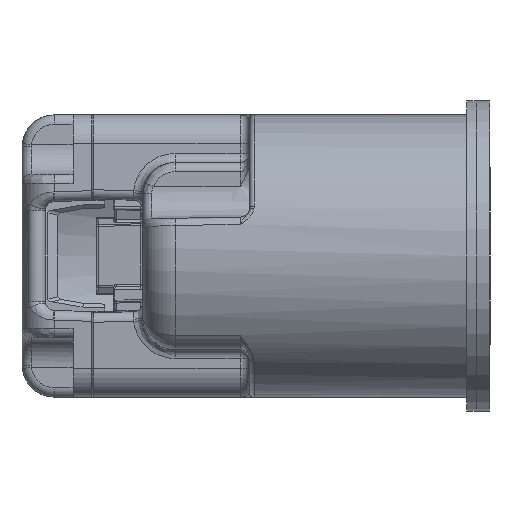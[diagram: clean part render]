
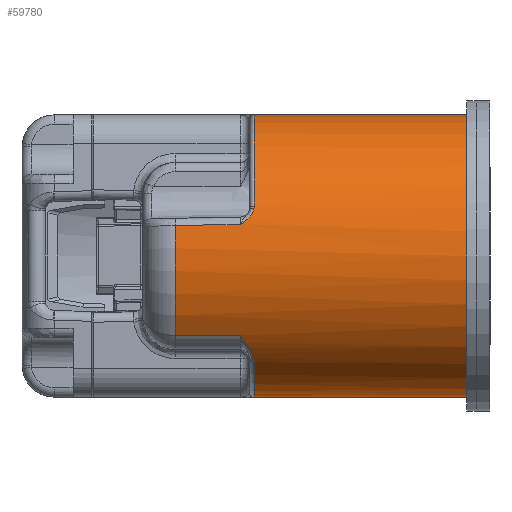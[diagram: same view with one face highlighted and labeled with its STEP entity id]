
A CAD part, left-side view. The second image highlights one B-rep face of the part: STEP entity #59780.
In plain terms, the highlighted cylindrical face has radius 15.2 mm (diameter 30.4 mm), a partial arc.
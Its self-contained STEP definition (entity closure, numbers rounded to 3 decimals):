
#17132=CARTESIAN_POINT('',(-19.8,-6.3,0.));
#17133=DIRECTION('',(0.,1.,0.));
#17134=DIRECTION('',(0.,0.,-1.));
#17135=AXIS2_PLACEMENT_3D('',#17132,#17133,#17134);
#17140=CARTESIAN_POINT('',(-19.8,16.6,0.));
#17141=DIRECTION('',(0.,1.,0.));
#17142=DIRECTION('',(0.,0.,-1.));
#17143=AXIS2_PLACEMENT_3D('',#17140,#17141,#17142);
#17148=CARTESIAN_POINT('',(-29.795,16.6,-11.452));
#17149=CARTESIAN_POINT('',(-29.796,16.6,-11.451));
#17150=CARTESIAN_POINT('',(-29.799,16.6,
-11.448));
#17151=CARTESIAN_POINT('',(-29.803,16.6,
-11.445));
#17152=CARTESIAN_POINT('',(-29.806,16.6,
-11.442));
#17153=CARTESIAN_POINT('',(-29.807,16.6,
-11.441));
#17158=CARTESIAN_POINT('',(-29.807,16.6,
-11.441));
#17159=CARTESIAN_POINT('',(-29.944,16.601,
-11.322));
#17160=CARTESIAN_POINT('',(-30.214,16.628,
-11.077));
#17161=CARTESIAN_POINT('',(-30.635,16.751,
-10.666));
#17162=CARTESIAN_POINT('',(-30.996,16.924,
-10.284));
#17163=CARTESIAN_POINT('',(-31.299,17.115,
-9.943));
#17164=CARTESIAN_POINT('',(-31.551,17.305,
-9.644));
#17165=CARTESIAN_POINT('',(-31.763,17.487,
-9.379));
#17166=CARTESIAN_POINT('',(-31.944,17.656,
-9.142));
#17167=CARTESIAN_POINT('',(-32.103,17.814,
-8.928));
#17168=CARTESIAN_POINT('',(-32.244,17.961,
-8.729));
#17169=CARTESIAN_POINT('',(-32.331,18.055,
-8.603));
#17170=CARTESIAN_POINT('',(-32.373,18.1,-8.542));
#17175=DIRECTION('',(0.,1.,0.));
#17176=VECTOR('',#17175,7.);
#17177=CARTESIAN_POINT('',(-32.373,18.1,-8.542));
#17178=LINE('',#17177,#17176);
#17182=CARTESIAN_POINT('',(-19.8,25.1,0.));
#17183=DIRECTION('',(0.,1.,0.));
#17184=DIRECTION('',(-0.827,0.,-0.562));
#17185=AXIS2_PLACEMENT_3D('',#17182,#17183,#17184);
#17190=CARTESIAN_POINT('',(-34.612,18.1,
3.413));
#17191=CARTESIAN_POINT('',(-34.615,18.807,
3.4));
#17192=CARTESIAN_POINT('',(-34.621,20.269,
3.373));
#17193=CARTESIAN_POINT('',(-34.631,22.575,
3.33));
#17194=CARTESIAN_POINT('',(-34.638,24.24,
3.299));
#17195=CARTESIAN_POINT('',(-34.641,25.1,
3.283));
#17200=CARTESIAN_POINT('',(-34.108,16.617,
5.131));
#17201=CARTESIAN_POINT('',(-34.145,16.632,
5.028));
#17202=CARTESIAN_POINT('',(-34.213,16.681,
4.832));
#17203=CARTESIAN_POINT('',(-34.301,16.803,
4.558));
#17204=CARTESIAN_POINT('',(-34.372,16.952,
4.326));
#17205=CARTESIAN_POINT('',(-34.425,17.104,
4.144));
#17206=CARTESIAN_POINT('',(-34.465,17.251,
3.999));
#17207=CARTESIAN_POINT('',(-34.496,17.389,
3.881));
#17208=CARTESIAN_POINT('',(-34.522,17.519,
3.782));
#17209=CARTESIAN_POINT('',(-34.543,17.639,
3.698));
#17210=CARTESIAN_POINT('',(-34.561,17.749,
3.626));
#17211=CARTESIAN_POINT('',(-34.577,17.85,
3.563));
#17212=CARTESIAN_POINT('',(-34.59,17.941,
3.508));
#17213=CARTESIAN_POINT('',(-34.601,18.025,
3.458));
#17214=CARTESIAN_POINT('',(-34.608,18.076,
3.428));
#17215=CARTESIAN_POINT('',(-34.612,18.1,
3.413));
#17220=CARTESIAN_POINT('',(-34.021,16.6,5.366));
#17221=CARTESIAN_POINT('',(-34.031,16.6,
5.339));
#17222=CARTESIAN_POINT('',(-34.051,16.601,
5.287));
#17223=CARTESIAN_POINT('',(-34.08,16.607,
5.209));
#17224=CARTESIAN_POINT('',(-34.098,16.613,
5.157));
#17225=CARTESIAN_POINT('',(-34.108,16.617,
5.131));
#17230=CARTESIAN_POINT('',(-19.8,16.6,0.));
#17231=DIRECTION('',(0.,-1.,0.));
#17232=DIRECTION('',(0.,0.,1.));
#17233=AXIS2_PLACEMENT_3D('',#17230,#17231,#17232);
#17238=DIRECTION('',(0.,-1.,0.));
#17239=VECTOR('',#17238,22.9);
#17240=CARTESIAN_POINT('',(-19.8,16.6,15.2));
#17241=LINE('',#17240,#17239);
#21617=DIRECTION('',(0.,-1.,0.));
#21618=VECTOR('',#21617,22.9);
#21619=CARTESIAN_POINT('',(-19.8,16.6,-15.2));
#21620=LINE('',#21619,#21618);
#24184=CARTESIAN_POINT('',(-34.612,18.1,
3.413));
#24218=CARTESIAN_POINT('',(-34.641,25.1,
3.283));
#38337=CARTESIAN_POINT('',(-32.373,25.1,-8.542));
#38339=VERTEX_POINT('',#38337);
#38419=VERTEX_POINT('',#17158);
#38420=VERTEX_POINT('',#17170);
#38423=VERTEX_POINT('',#17148);
#38426=CARTESIAN_POINT('',(-19.8,16.6,-15.2));
#38427=VERTEX_POINT('',#38426);
#38450=CARTESIAN_POINT('',(-19.8,16.6,15.2));
#38452=VERTEX_POINT('',#38450);
#38457=CARTESIAN_POINT('',(-34.021,16.6,5.366));
#38458=VERTEX_POINT('',#38457);
#38544=VERTEX_POINT('',#24218);
#38574=VERTEX_POINT('',#24184);
#38575=VERTEX_POINT('',#17200);
#42346=CARTESIAN_POINT('',(-19.8,-6.3,15.2));
#42348=VERTEX_POINT('',#42346);
#42350=CARTESIAN_POINT('',(-19.8,-6.3,-15.2));
#42351=VERTEX_POINT('',#42350);
#59750=CARTESIAN_POINT('',(-19.8,28.6,0.));
#59751=DIRECTION('',(0.,1.,0.));
#59752=DIRECTION('',(1.,0.,0.));
#59753=AXIS2_PLACEMENT_3D('',#59750,#59751,#59752);
#59754=CYLINDRICAL_SURFACE('',#59753,15.2);
#59756=ORIENTED_EDGE('',*,*,#59755,.F.);
#59758=ORIENTED_EDGE('',*,*,#59757,.F.);
#59760=ORIENTED_EDGE('',*,*,#59759,.T.);
#59762=ORIENTED_EDGE('',*,*,#59761,.T.);
#59764=ORIENTED_EDGE('',*,*,#59763,.T.);
#59766=ORIENTED_EDGE('',*,*,#59765,.T.);
#59768=ORIENTED_EDGE('',*,*,#59767,.T.);
#59770=ORIENTED_EDGE('',*,*,#59769,.F.);
#59772=ORIENTED_EDGE('',*,*,#59771,.F.);
#59774=ORIENTED_EDGE('',*,*,#59773,.F.);
#59776=ORIENTED_EDGE('',*,*,#59775,.F.);
#59777=ORIENTED_EDGE('',*,*,#47985,.T.);
#59778=EDGE_LOOP('',(#59756,#59758,#59760,#59762,#59764,#59766,#59768,#59770,
#59772,#59774,#59776,#59777));
#59779=FACE_OUTER_BOUND('',#59778,.F.);
#17136=CIRCLE('',#17135,15.2);
#17144=CIRCLE('',#17143,15.2);
#17154=B_SPLINE_CURVE_WITH_KNOTS('',3,(#17148,#17149,#17150,#17151,#17152,
#17153),.UNSPECIFIED.,.F.,.F.,(4,1,1,4),(0.,0.333,
0.667,1.),.UNSPECIFIED.);
#17171=B_SPLINE_CURVE_WITH_KNOTS('',3,(#17158,#17159,#17160,#17161,#17162,
#17163,#17164,#17165,#17166,#17167,#17168,#17169,#17170),.UNSPECIFIED.,.F.,.F.,(
4,1,1,1,1,1,1,1,1,1,4),(0.,0.1,0.2,0.3,0.4,0.5,0.6,0.7,0.8,
0.9,1.),.UNSPECIFIED.);
#17186=CIRCLE('',#17185,15.2);
#17196=B_SPLINE_CURVE_WITH_KNOTS('',3,(#17190,#17191,#17192,#17193,#17194,
#17195),.UNSPECIFIED.,.F.,.F.,(4,1,1,4),(0.,0.333,
0.667,1.),.UNSPECIFIED.);
#17216=B_SPLINE_CURVE_WITH_KNOTS('',3,(#17200,#17201,#17202,#17203,#17204,
#17205,#17206,#17207,#17208,#17209,#17210,#17211,#17212,#17213,#17214,#17215),
.UNSPECIFIED.,.F.,.F.,(4,1,1,1,1,1,1,1,1,1,1,1,1,4),(0.,0.077,
0.154,0.231,0.308,0.385,
0.462,0.538,0.615,0.692,
0.769,0.846,0.923,1.),.UNSPECIFIED.);
#17226=B_SPLINE_CURVE_WITH_KNOTS('',3,(#17220,#17221,#17222,#17223,#17224,
#17225),.UNSPECIFIED.,.F.,.F.,(4,1,1,4),(0.,0.333,
0.667,1.),.UNSPECIFIED.);
#17234=CIRCLE('',#17233,15.2);
#47985=EDGE_CURVE('',#38452,#42348,#17241,.T.);
#59755=EDGE_CURVE('',#42351,#42348,#17136,.T.);
#59757=EDGE_CURVE('',#38427,#42351,#21620,.T.);
#59759=EDGE_CURVE('',#38427,#38423,#17144,.T.);
#59761=EDGE_CURVE('',#38423,#38419,#17154,.T.);
#59763=EDGE_CURVE('',#38419,#38420,#17171,.T.);
#59765=EDGE_CURVE('',#38420,#38339,#17178,.T.);
#59767=EDGE_CURVE('',#38339,#38544,#17186,.T.);
#59769=EDGE_CURVE('',#38574,#38544,#17196,.T.);
#59771=EDGE_CURVE('',#38575,#38574,#17216,.T.);
#59773=EDGE_CURVE('',#38458,#38575,#17226,.T.);
#59775=EDGE_CURVE('',#38452,#38458,#17234,.T.);
#59780=ADVANCED_FACE('',(#59779),#59754,.T.);
